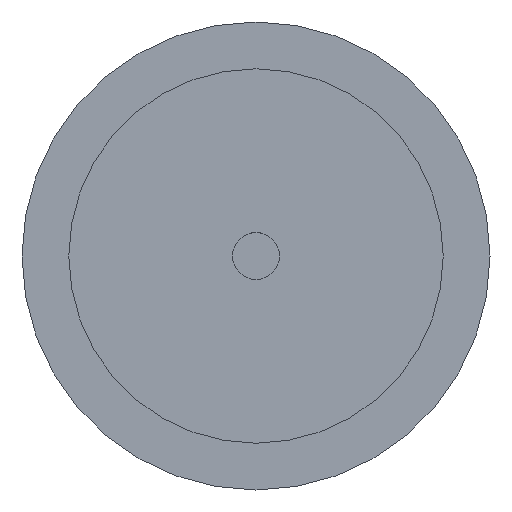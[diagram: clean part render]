
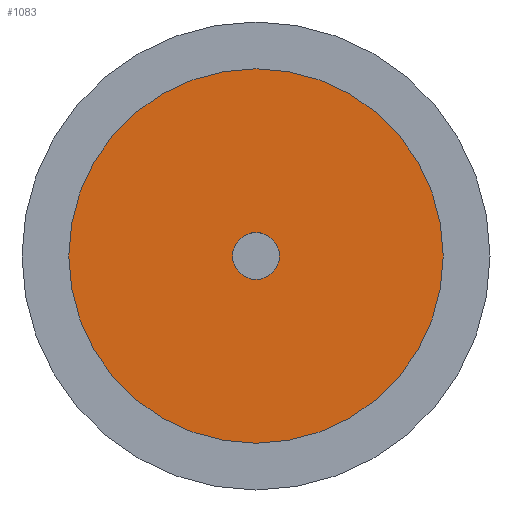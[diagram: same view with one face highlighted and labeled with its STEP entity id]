
A CAD part, left-side view. The second image highlights one B-rep face of the part: STEP entity #1083.
In plain terms, the highlighted planar face has unit normal (-1, 0, 0).
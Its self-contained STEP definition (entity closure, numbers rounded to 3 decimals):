
#533 = VERTEX_POINT ( 'NONE', #1455 ) ;
#763 = VERTEX_POINT ( 'NONE', #2852 ) ;
#779 = EDGE_CURVE ( 'NONE', #763, #533, #2835, .T. ) ;
#1044 = EDGE_CURVE ( 'NONE', #1045, #1046, #3545, .T. ) ;
#1045 = VERTEX_POINT ( 'NONE', #3530 ) ;
#1046 = VERTEX_POINT ( 'NONE', #3588 ) ;
#1083 = ADVANCED_FACE ( 'NONE', ( #3644, #3643 ), #3642, .F. ) ;
#1084 = EDGE_LOOP ( 'NONE', ( #1085, #1086 ) ) ;
#1085 = ORIENTED_EDGE ( 'NONE', *, *, #1044, .F. ) ;
#1086 = ORIENTED_EDGE ( 'NONE', *, *, #1087, .F. ) ;
#1087 = EDGE_CURVE ( 'NONE', #1046, #1045, #3637, .T. ) ;
#1088 = EDGE_LOOP ( 'NONE', ( #1089, #1255 ) ) ;
#1089 = ORIENTED_EDGE ( 'NONE', *, *, #779, .T. ) ;
#1255 = ORIENTED_EDGE ( 'NONE', *, *, #1256, .T. ) ;
#1256 = EDGE_CURVE ( 'NONE', #533, #763, #3745, .T. ) ;
#1455 = CARTESIAN_POINT ( 'NONE',  ( -7., 0., -1.5 ) ) ;
#2831 = DIRECTION ( 'NONE',  ( 0., 0., -1. ) ) ;
#2832 = DIRECTION ( 'NONE',  ( 1., 0., 0. ) ) ;
#2833 = CARTESIAN_POINT ( 'NONE',  ( -7., 0., 0. ) ) ;
#2834 = AXIS2_PLACEMENT_3D ( 'NONE', #2833, #2832, #2831 ) ;
#2835 = CIRCLE ( 'NONE', #2834, 1.5 ) ;
#2852 = CARTESIAN_POINT ( 'NONE',  ( -7., 0., 1.5 ) ) ;
#3530 = CARTESIAN_POINT ( 'NONE',  ( -7., 0., -12. ) ) ;
#3531 = DIRECTION ( 'NONE',  ( 0., 0., -1. ) ) ;
#3532 = DIRECTION ( 'NONE',  ( 1., 0., 0. ) ) ;
#3533 = CARTESIAN_POINT ( 'NONE',  ( -7., 0., 0. ) ) ;
#3544 = AXIS2_PLACEMENT_3D ( 'NONE', #3533, #3532, #3531 ) ;
#3545 = CIRCLE ( 'NONE', #3544, 12. ) ;
#3588 = CARTESIAN_POINT ( 'NONE',  ( -7., 0., 12. ) ) ;
#3633 = DIRECTION ( 'NONE',  ( 0., 0., -1. ) ) ;
#3634 = DIRECTION ( 'NONE',  ( 1., 0., 0. ) ) ;
#3635 = CARTESIAN_POINT ( 'NONE',  ( -7., 0., 0. ) ) ;
#3636 = AXIS2_PLACEMENT_3D ( 'NONE', #3635, #3634, #3633 ) ;
#3637 = CIRCLE ( 'NONE', #3636, 12. ) ;
#3638 = DIRECTION ( 'NONE',  ( 0., 0., -1. ) ) ;
#3639 = DIRECTION ( 'NONE',  ( 1., 0., 0. ) ) ;
#3640 = CARTESIAN_POINT ( 'NONE',  ( -7., 0., 0. ) ) ;
#3641 = AXIS2_PLACEMENT_3D ( 'NONE', #3640, #3639, #3638 ) ;
#3642 = PLANE ( 'NONE',  #3641 ) ;
#3643 = FACE_BOUND ( 'NONE', #1088, .T. ) ;
#3644 = FACE_OUTER_BOUND ( 'NONE', #1084, .T. ) ;
#3741 = DIRECTION ( 'NONE',  ( 0., 0., -1. ) ) ;
#3742 = DIRECTION ( 'NONE',  ( 1., 0., 0. ) ) ;
#3743 = CARTESIAN_POINT ( 'NONE',  ( -7., 0., 0. ) ) ;
#3744 = AXIS2_PLACEMENT_3D ( 'NONE', #3743, #3742, #3741 ) ;
#3745 = CIRCLE ( 'NONE', #3744, 1.5 ) ;
